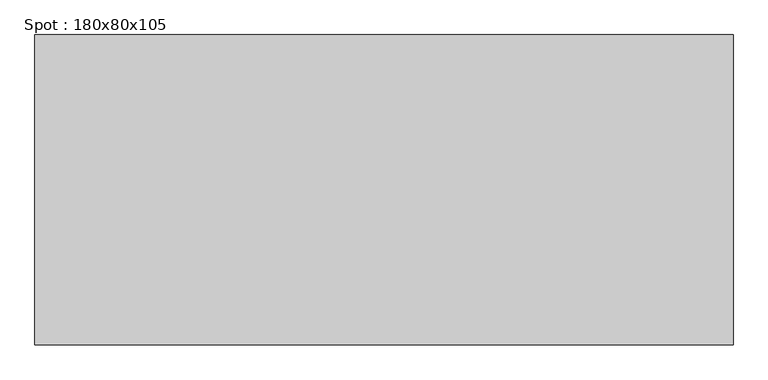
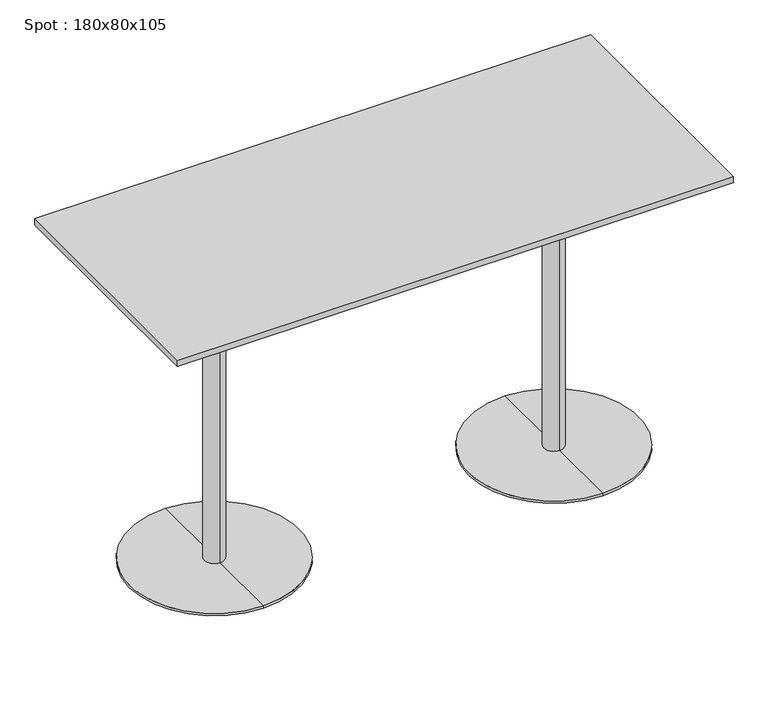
"""IFC4 building model written with IfcOpenShell, lengths in millimetres: furniture geometry, Spot : 180x80x105."""

import ifcopenshell
import ifcopenshell.guid

model = None  # the IFC model being written
_history = None  # IfcOwnerHistory: only IFC2X3 demands one
_inside = {}  # id of a spatial element -> (the spatial element, [elements in it])
_under = {}  # id of a project, library or spatial element -> (it, [spatial elements below it])
_declared = {}  # id of a project -> (the project, [libraries it declares])
_typed = {}  # id of a type object -> (the type object, [elements of that type])
_made_of = {}  # id of a material, layer set ... -> (it, [elements and type objects made of it])


def new_model(schema):
    """Start an empty IFC model of exactly this schema.

    Asked for "IFC4X3", IfcOpenShell would pick the latest addendum, in which some entities
    have other attributes; the version numbers below select the first issue.
    IFC2X3 requires an IfcOwnerHistory on every rooted entity: one is made here for all.
    """
    global model, _history
    if schema == "IFC4X3":
        model = ifcopenshell.file(schema_version=(4, 3, 0, 0))
    else:
        model = ifcopenshell.file(schema=schema)
    _inside.clear()
    _under.clear()
    _declared.clear()
    _typed.clear()
    _made_of.clear()
    _history = None
    if model.schema == "IFC2X3":
        org = make("IfcOrganization", Name="unknown")
        user = make(
            "IfcPersonAndOrganization",
            ThePerson=make("IfcPerson", FamilyName="unknown"),
            TheOrganization=org,
        )
        app = make(
            "IfcApplication",
            ApplicationDeveloper=org,
            Version="unknown",
            ApplicationFullName="unknown",
            ApplicationIdentifier="unknown",
        )
        _history = make(
            "IfcOwnerHistory",
            OwningUser=user,
            OwningApplication=app,
            ChangeAction="ADDED",
            CreationDate=0,
        )
    return model


def make(cls, **values):
    """One entity of the class cls with the attributes given. An attribute that is None is left unset."""
    return model.create_entity(
        cls, **{name: value for name, value in values.items() if value is not None}
    )


def rooted(cls, **values):
    """An entity with a GlobalId (a new one), such as an element, a storey or a relation."""
    return make(cls, GlobalId=ifcopenshell.guid.new(), OwnerHistory=_history, **values)


def si_unit(unit_type, name, prefix=None):
    """IfcSIUnit, for example si_unit("LENGTHUNIT", "METRE", prefix="MILLI")."""
    return make("IfcSIUnit", UnitType=unit_type, Prefix=prefix, Name=name)


def assignment(units):
    """IfcUnitAssignment: the units of a project."""
    return None if units is None else make("IfcUnitAssignment", Units=units)


def point(xyz):
    """IfcCartesianPoint."""
    return None if xyz is None else make("IfcCartesianPoint", Coordinates=xyz)


def direction(xyz):
    """IfcDirection."""
    return None if xyz is None else make("IfcDirection", DirectionRatios=xyz)


def frame(location, z_axis=None, x_axis=None):
    """IfcAxis2Placement3D, a coordinate frame: its origin and axes. An axis left out is left unset."""
    return make(
        "IfcAxis2Placement3D",
        Location=point(location),
        Axis=direction(z_axis),
        RefDirection=direction(x_axis),
    )


def origin():
    """The frame at (0, 0, 0) with its axes left unset."""
    return frame((0.0, 0.0, 0.0))


def place(relative_to, where):
    """IfcLocalPlacement: puts the frame where relative to a parent placement (None: the world)."""
    return make(
        "IfcLocalPlacement", PlacementRelTo=relative_to, RelativePlacement=where
    )


def context(
    kind, dimensions, precision=None, world=None, true_north=None, identifier=None
):
    """IfcGeometricRepresentationContext, for example the 3D "Model" context."""
    return make(
        "IfcGeometricRepresentationContext",
        ContextIdentifier=identifier,
        ContextType=kind,
        CoordinateSpaceDimension=dimensions,
        Precision=precision,
        WorldCoordinateSystem=world,
        TrueNorth=true_north,
    )


def project(units=None, contexts=None):
    """IfcProject with its units and contexts."""
    return rooted(
        "IfcProject",
        Name="project",
        RepresentationContexts=contexts,
        UnitsInContext=assignment(units),
    )


def spatial(cls, under=None, at=None, **own):
    """A site, building, storey or space (cls), placed at a placement, below another one or the project."""
    s = rooted(cls, ObjectPlacement=at, **own)
    if under is not None:
        _under.setdefault(under.id(), (under, []))[1].append(s)
    return s


def polyline(points):
    """IfcPolyline through the points."""
    return make("IfcPolyline", Points=[point(p) for p in points])


def circle_curve(where, radius):
    """IfcCircle in the frame where."""
    return make("IfcCircle", Position=where, Radius=radius)


def outline(outer, holes=None, kind="AREA"):
    """IfcArbitraryClosedProfileDef: a profile drawn as a closed curve; with holes, ...WithVoids."""
    if holes is None:
        return make("IfcArbitraryClosedProfileDef", ProfileType=kind, OuterCurve=outer)
    return make(
        "IfcArbitraryProfileDefWithVoids",
        ProfileType=kind,
        OuterCurve=outer,
        InnerCurves=holes,
    )


def extrude(swept, where, along, depth):
    """IfcExtrudedAreaSolid: the profile swept, set in the frame where, extruded along a direction by depth."""
    return make(
        "IfcExtrudedAreaSolid",
        SweptArea=swept,
        Position=where,
        ExtrudedDirection=direction(along),
        Depth=depth,
    )


def shape(context_of_items, identifier, shape_type, items):
    """IfcShapeRepresentation: the items that make up one representation, for example the "Body"."""
    return make(
        "IfcShapeRepresentation",
        ContextOfItems=context_of_items,
        RepresentationIdentifier=identifier,
        RepresentationType=shape_type,
        Items=items,
    )


def source(mapping_origin, context_of_items, identifier, shape_type, items):
    """IfcRepresentationMap: a shape defined once, which mapped items show again and again."""
    return make(
        "IfcRepresentationMap",
        MappingOrigin=mapping_origin,
        MappedRepresentation=shape(context_of_items, identifier, shape_type, items),
    )


def transform(
    local_origin,
    x_axis=None,
    y_axis=None,
    z_axis=None,
    scale=None,
    scale2=None,
    scale3=None,
    uniform=True,
):
    """IfcCartesianTransformationOperator3D, or its non-uniform kind. x_axis, y_axis, z_axis: its Axis1, 2, 3."""
    if uniform:
        return make(
            "IfcCartesianTransformationOperator3D",
            Axis1=direction(x_axis),
            Axis2=direction(y_axis),
            LocalOrigin=point(local_origin),
            Scale=scale,
            Axis3=direction(z_axis),
        )
    return make(
        "IfcCartesianTransformationOperator3DnonUniform",
        Axis1=direction(x_axis),
        Axis2=direction(y_axis),
        LocalOrigin=point(local_origin),
        Scale=scale,
        Axis3=direction(z_axis),
        Scale2=scale2,
        Scale3=scale3,
    )


def mapped(mapping_source, mapping_target):
    """IfcMappedItem: shows the shape of a source again, moved by a transform."""
    return make(
        "IfcMappedItem", MappingSource=mapping_source, MappingTarget=mapping_target
    )


def made_of(thing, what):
    """Note that an element or type object is made of a material, layer set ...; save() writes the relation."""
    if what is not None:
        _made_of.setdefault(what.id(), (what, []))[1].append(thing)
    return thing


def element(
    cls,
    number,
    at=None,
    inside=None,
    cuts=None,
    type_object=None,
    material=None,
    context=None,
    identifier="Body",
    shape_type=None,
    held_by="IfcProductDefinitionShape",
    body=None,
    shapes=None,
    **own,
):
    """One element of the class cls, such as IfcWall. Its Tag is "e" and its number.

    at: its placement. inside: the storey or other place that contains it. cuts: it is an
    opening in that element (IfcRelVoidsElement). A single representation is given by context,
    identifier, shape_type and body (its items); several are given by shapes. held_by: the class
    of the entity that holds the representations. save() writes the other relations.
    """
    e = rooted(cls, Tag="e%d" % number, ObjectPlacement=at, **own)
    if body is not None:
        shapes = [shape(context, identifier, shape_type, body)]
    if shapes is not None:
        e.Representation = make(held_by, Representations=shapes)
    if inside is not None:
        _inside.setdefault(inside.id(), (inside, []))[1].append(e)
    if cuts is not None:
        rooted(
            "IfcRelVoidsElement", RelatingBuildingElement=cuts, RelatedOpeningElement=e
        )
    if type_object is not None:
        _typed.setdefault(type_object.id(), (type_object, []))[1].append(e)
    return made_of(e, material)


def aggregate(whole, parts):
    """IfcRelAggregates: a whole, such as a stair, and the parts it consists of."""
    return rooted("IfcRelAggregates", RelatingObject=whole, RelatedObjects=parts)


def save(model, path):
    """Write the relations noted so far, then the file.

    IfcRelAggregates (storeys below a building ...), IfcRelContainedInSpatialStructure (elements
    in a storey), IfcRelDefinesByType, IfcRelAssociatesMaterial and IfcRelDeclares: one each for
    every whole, place, type object, material and project.
    """
    for whole, parts in _under.values():
        aggregate(whole, parts)
    for where, things in _inside.values():
        rooted(
            "IfcRelContainedInSpatialStructure",
            RelatedElements=things,
            RelatingStructure=where,
        )
    for kind, things in _typed.values():
        rooted("IfcRelDefinesByType", RelatedObjects=things, RelatingType=kind)
    for what, things in _made_of.values():
        rooted("IfcRelAssociatesMaterial", RelatedObjects=things, RelatingMaterial=what)
    for by, libraries in _declared.values():
        rooted("IfcRelDeclares", RelatingContext=by, RelatedDefinitions=libraries)
    model.write(path)


def plane_surface(at):
    """IfcPlane: the flat surface through the origin of the frame at, square to its z axis."""
    return make("IfcPlane", Position=at)


def cylinder_surface(at, radius):
    """IfcCylindricalSurface: all points at the distance radius from the z axis of the frame at."""
    return make("IfcCylindricalSurface", Position=at, Radius=radius)


def revolved_surface(curve, axis_point, axis_direction):
    """IfcSurfaceOfRevolution: the curve turned about the line through axis_point along axis_direction."""
    return make(
        "IfcSurfaceOfRevolution",
        SweptCurve=make("IfcArbitraryOpenProfileDef", ProfileType="CURVE", Curve=curve),
        AxisPosition=make("IfcAxis1Placement", Location=point(axis_point), Axis=direction(axis_direction)),
    )


def advanced_brep(points, edges, surfaces, faces):
    """IfcAdvancedBrep: a solid bounded by faces that lie on surfaces and meet in shared edges.

    An edge is (start, end): straight between two places in points (the first is 0);
    or (start, end, curve); or (start, end, curve, False) where it runs against its curve.
    A face is (place in surfaces, loops), or (place, loops, False) where it looks against
    its surface's normal. A loop lists edges by number (the first is 1), with a minus sign
    where the edge is run from its end to its start. The first loop is the outer one.
    """
    corners = [point(p) for p in points]
    vertices = [make("IfcVertexPoint", VertexGeometry=c) for c in corners]
    made = []
    for start, end, *more in edges:
        made.append(
            make(
                "IfcEdgeCurve",
                EdgeStart=vertices[start],
                EdgeEnd=vertices[end],
                EdgeGeometry=more[0] if more else make("IfcPolyline", Points=[corners[start], corners[end]]),
                SameSense=more[1] if len(more) > 1 else True,
            )
        )
    hull = []
    for where, loops, *sense in faces:
        bounds = []
        for j, loop in enumerate(loops):
            ring = [make("IfcOrientedEdge", EdgeElement=made[abs(k) - 1], Orientation=k > 0) for k in loop]
            bounds.append(
                make(
                    "IfcFaceOuterBound" if j == 0 else "IfcFaceBound",
                    Bound=make("IfcEdgeLoop", EdgeList=ring),
                    Orientation=True,
                )
            )
        hull.append(make("IfcAdvancedFace", Bounds=bounds, FaceSurface=surfaces[where], SameSense=sense[0] if sense else True))
    return make("IfcAdvancedBrep", Outer=make("IfcClosedShell", CfsFaces=hull))


def spot_180x80x105_d3b8bb8b(model_context):
    return source(origin(), model_context, "Body", "SolidModel", [
        extrude(outline(polyline([(900.0, 400.0), (900.0, -400.0), (-900.0, -400.0), (-900.0, 400.0), (900.0, 400.0)])), frame((0.0, 0.0, 1028.0), z_axis=(0.0, 0.0, 1.0), x_axis=(1.0, 0.0, 0.0)), (0.0, 0.0, 1.0), 22.0),
        advanced_brep(
        [(-550.0, 32.0, 10.0), (-550.0, -32.0, 10.0), (-550.0, -32.0, 997.406916), (-550.0, 32.0, 997.406916), (-550.0, 275.0, 10.0), (-550.0, -275.0, 10.0), (-550.0, 275.0, 2.0), (-550.0, -275.0, 2.0), (-550.0, 0.0, 2.0), (-550.0, 150.0, 1028.0), (-550.0, -150.0, 1028.0), (-550.0, 0.0, 1028.0), (-550.0, 150.0, 1016.7213673), (-550.0, -150.0, 1016.7213673)],
        [
            (0, 1, circle_curve(frame((-550.0, 0.0, 10.0), z_axis=(0.0, 0.0, 1.0), x_axis=(0.0, -1.0, 0.0)), 32.0)),
            (1, 2),
            (2, 3, circle_curve(frame((-550.0, 0.0, 997.406916), z_axis=(0.0, 0.0, -1.0), x_axis=(0.0, -1.0, 0.0)), 32.0)),
            (3, 0),
            (1, 0, circle_curve(frame((-550.0, 0.0, 10.0), z_axis=(0.0, 0.0, 1.0), x_axis=(0.0, -1.0, 0.0)), 32.0)),
            (3, 2, circle_curve(frame((-550.0, 0.0, 997.406916), z_axis=(0.0, 0.0, -1.0), x_axis=(0.0, -1.0, 0.0)), 32.0)),
            (4, 5, circle_curve(frame((-550.0, 0.0, 10.0), z_axis=(0.0, 0.0, 1.0), x_axis=(0.0, -1.0, 0.0)), 275.0)),
            (5, 1),
            (0, 4),
            (5, 4, circle_curve(frame((-550.0, 0.0, 10.0), z_axis=(0.0, 0.0, 1.0), x_axis=(0.0, -1.0, 0.0)), 275.0)),
            (6, 7, circle_curve(frame((-550.0, 0.0, 2.0), z_axis=(0.0, 0.0, 1.0), x_axis=(0.0, -1.0, 0.0)), 275.0)),
            (7, 5),
            (4, 6),
            (7, 6, circle_curve(frame((-550.0, 0.0, 2.0), z_axis=(0.0, 0.0, 1.0), x_axis=(0.0, -1.0, 0.0)), 275.0)),
            (8, 7),
            (6, 8),
            (9, 10, circle_curve(frame((-550.0, 0.0, 1028.0), z_axis=(0.0, 0.0, 1.0), x_axis=(0.0, -1.0, 0.0)), 150.0)),
            (10, 11),
            (11, 9),
            (10, 9, circle_curve(frame((-550.0, 0.0, 1028.0), z_axis=(0.0, 0.0, 1.0), x_axis=(0.0, -1.0, 0.0)), 150.0)),
            (12, 13, circle_curve(frame((-550.0, 0.0, 1016.7213673), z_axis=(0.0, 0.0, 1.0), x_axis=(0.0, -1.0, 0.0)), 150.0)),
            (13, 10),
            (9, 12),
            (13, 12, circle_curve(frame((-550.0, 0.0, 1016.7213673), z_axis=(0.0, 0.0, 1.0), x_axis=(0.0, -1.0, 0.0)), 150.0)),
            (2, 13),
            (12, 3),
        ],
        [
            cylinder_surface(frame((-550.0, 0.0, 1390.0), z_axis=(0.0, 0.0, -1.0), x_axis=(0.0, -1.0, 0.0)), 32.0),
            plane_surface(frame((-550.0, 0.0, 10.0), z_axis=(0.0, 0.0, 1.0), x_axis=(0.0, -1.0, 0.0))),
            cylinder_surface(frame((-550.0, 0.0, 1390.0), z_axis=(0.0, 0.0, -1.0), x_axis=(0.0, -1.0, 0.0)), 275.0),
            plane_surface(frame((-550.0, 0.0, 2.0), z_axis=(0.0, 0.0, -1.0), x_axis=(0.0, -1.0, 0.0))),
            plane_surface(frame((-550.0, 0.0, 1028.0), z_axis=(0.0, 0.0, 1.0), x_axis=(0.0, -1.0, 0.0))),
            cylinder_surface(frame((-550.0, 0.0, 1390.0), z_axis=(0.0, 0.0, -1.0), x_axis=(0.0, -1.0, 0.0)), 150.0),
            revolved_surface(polyline([(-550.0, -150.0, 1016.7213673), (-550.0, -32.0, 997.406916)]), (-550.0, 0.0, 1390.0), (0.0, 0.0, -1.0)),
        ],
        [
            (0, [[1, 2, 3, 4]]),
            (0, [[5, -4, 6, -2]]),
            (1, [[7, 8, -1, 9]]),
            (1, [[10, -9, -5, -8]]),
            (2, [[11, 12, -7, 13]]),
            (2, [[14, -13, -10, -12]]),
            (3, [[15, -11, 16]]),
            (3, [[-16, -14, -15]]),
            (4, [[17, 18, 19]]),
            (4, [[20, -19, -18]]),
            (5, [[21, 22, -17, 23]]),
            (5, [[24, -23, -20, -22]]),
            (6, [[-3, 25, -21, 26]]),
            (6, [[-6, -26, -24, -25]]),
        ],
    ),
        advanced_brep(
        [(550.0, 32.0, 10.0), (550.0, -32.0, 10.0), (550.0, -32.0, 997.406916), (550.0, 32.0, 997.406916), (550.0, 275.0, 10.0), (550.0, -275.0, 10.0), (550.0, 275.0, 2.0), (550.0, -275.0, 2.0), (550.0, 0.0, 2.0), (550.0, 150.0, 1028.0), (550.0, -150.0, 1028.0), (550.0, 0.0, 1028.0), (550.0, 150.0, 1016.7213673), (550.0, -150.0, 1016.7213673)],
        [
            (0, 1, circle_curve(frame((550.0, 0.0, 10.0), z_axis=(0.0, 0.0, 1.0), x_axis=(0.0, -1.0, 0.0)), 32.0)),
            (1, 2),
            (2, 3, circle_curve(frame((550.0, 0.0, 997.406916), z_axis=(0.0, 0.0, -1.0), x_axis=(0.0, -1.0, 0.0)), 32.0)),
            (3, 0),
            (1, 0, circle_curve(frame((550.0, 0.0, 10.0), z_axis=(0.0, 0.0, 1.0), x_axis=(0.0, -1.0, 0.0)), 32.0)),
            (3, 2, circle_curve(frame((550.0, 0.0, 997.406916), z_axis=(0.0, 0.0, -1.0), x_axis=(0.0, -1.0, 0.0)), 32.0)),
            (4, 5, circle_curve(frame((550.0, 0.0, 10.0), z_axis=(0.0, 0.0, 1.0), x_axis=(0.0, -1.0, 0.0)), 275.0)),
            (5, 1),
            (0, 4),
            (5, 4, circle_curve(frame((550.0, 0.0, 10.0), z_axis=(0.0, 0.0, 1.0), x_axis=(0.0, -1.0, 0.0)), 275.0)),
            (6, 7, circle_curve(frame((550.0, 0.0, 2.0), z_axis=(0.0, 0.0, 1.0), x_axis=(0.0, -1.0, 0.0)), 275.0)),
            (7, 5),
            (4, 6),
            (7, 6, circle_curve(frame((550.0, 0.0, 2.0), z_axis=(0.0, 0.0, 1.0), x_axis=(0.0, -1.0, 0.0)), 275.0)),
            (8, 7),
            (6, 8),
            (9, 10, circle_curve(frame((550.0, 0.0, 1028.0), z_axis=(0.0, 0.0, 1.0), x_axis=(0.0, -1.0, 0.0)), 150.0)),
            (10, 11),
            (11, 9),
            (10, 9, circle_curve(frame((550.0, 0.0, 1028.0), z_axis=(0.0, 0.0, 1.0), x_axis=(0.0, -1.0, 0.0)), 150.0)),
            (12, 13, circle_curve(frame((550.0, 0.0, 1016.7213673), z_axis=(0.0, 0.0, 1.0), x_axis=(0.0, -1.0, 0.0)), 150.0)),
            (13, 10),
            (9, 12),
            (13, 12, circle_curve(frame((550.0, 0.0, 1016.7213673), z_axis=(0.0, 0.0, 1.0), x_axis=(0.0, -1.0, 0.0)), 150.0)),
            (2, 13),
            (12, 3),
        ],
        [
            cylinder_surface(frame((550.0, 0.0, 1390.0), z_axis=(0.0, 0.0, -1.0), x_axis=(0.0, -1.0, 0.0)), 32.0),
            plane_surface(frame((550.0, 0.0, 10.0), z_axis=(0.0, 0.0, 1.0), x_axis=(0.0, -1.0, 0.0))),
            cylinder_surface(frame((550.0, 0.0, 1390.0), z_axis=(0.0, 0.0, -1.0), x_axis=(0.0, -1.0, 0.0)), 275.0),
            plane_surface(frame((550.0, 0.0, 2.0), z_axis=(0.0, 0.0, -1.0), x_axis=(0.0, -1.0, 0.0))),
            plane_surface(frame((550.0, 0.0, 1028.0), z_axis=(0.0, 0.0, 1.0), x_axis=(0.0, -1.0, 0.0))),
            cylinder_surface(frame((550.0, 0.0, 1390.0), z_axis=(0.0, 0.0, -1.0), x_axis=(0.0, -1.0, 0.0)), 150.0),
            revolved_surface(polyline([(550.0, -150.0, 1016.7213673), (550.0, -32.0, 997.406916)]), (550.0, 0.0, 1390.0), (0.0, 0.0, -1.0)),
        ],
        [
            (0, [[1, 2, 3, 4]]),
            (0, [[5, -4, 6, -2]]),
            (1, [[7, 8, -1, 9]]),
            (1, [[10, -9, -5, -8]]),
            (2, [[11, 12, -7, 13]]),
            (2, [[14, -13, -10, -12]]),
            (3, [[15, -11, 16]]),
            (3, [[-16, -14, -15]]),
            (4, [[17, 18, 19]]),
            (4, [[20, -19, -18]]),
            (5, [[21, 22, -17, 23]]),
            (5, [[24, -23, -20, -22]]),
            (6, [[-3, 25, -21, 26]]),
            (6, [[-6, -26, -24, -25]]),
        ],
    ),
    ])


if __name__ == "__main__":
    model = new_model("IFC4")
    model_context = context("Model", 3, world=origin())
    ifc_project = project(units=[si_unit("LENGTHUNIT", "METRE", prefix="MILLI")], contexts=[model_context])
    site = spatial("IfcSite", under=ifc_project)
    building = spatial("IfcBuilding", under=site)
    placement = place(None, origin())
    spot_180x80x105_shape = spot_180x80x105_d3b8bb8b(model_context)
    element("IfcFurniture", 1, ObjectType="Spot : 180x80x105", at=placement, inside=building, context=model_context, shape_type="MappedRepresentation", body=[
        mapped(spot_180x80x105_shape, transform((0.0, 0.0, 0.0), x_axis=(1.0, 0.0, 0.0), y_axis=(0.0, 1.0, 0.0), z_axis=(0.0, 0.0, 1.0))),
    ])
    save(model, "model.ifc")
